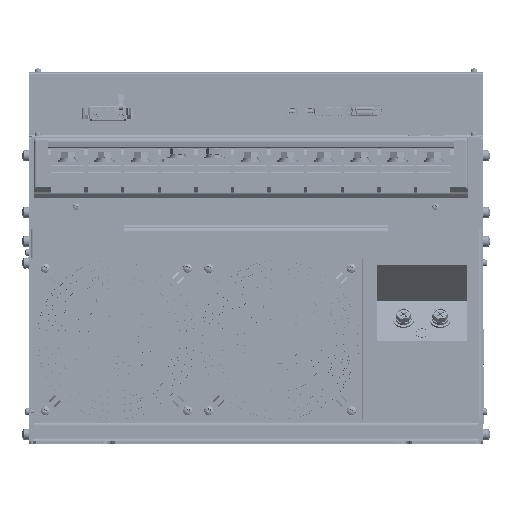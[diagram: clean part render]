
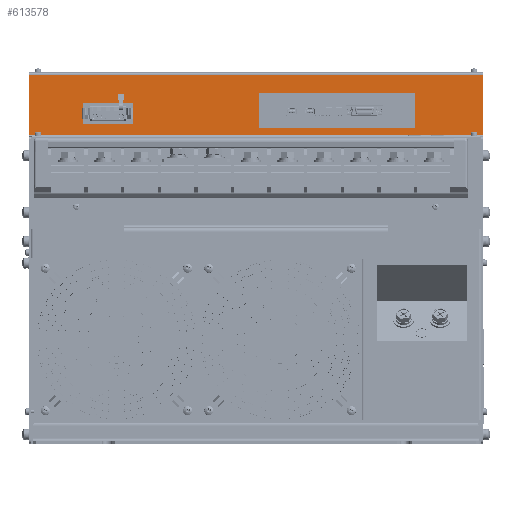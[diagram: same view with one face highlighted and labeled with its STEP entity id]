
A CAD part, front view. The second image highlights one B-rep face of the part: STEP entity #613578.
In plain terms, the highlighted planar face has unit normal (0, -1, 0).
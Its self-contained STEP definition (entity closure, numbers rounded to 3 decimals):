
#110 = LINE ( 'NONE', #176382, #438803 ) ;
#286 = EDGE_CURVE ( 'NONE', #43005, #220230, #213677, .T. ) ;
#598 = CARTESIAN_POINT ( 'NONE',  ( -151.6, 74.5, 277.6 ) ) ;
#5106 = EDGE_LOOP ( 'NONE', ( #549450, #39652, #375952, #313842 ) ) ;
#10384 = DIRECTION ( 'NONE',  ( -1., 0., 0. ) ) ;
#15316 = CARTESIAN_POINT ( 'NONE',  ( 0., 74.5, 249. ) ) ;
#22300 = EDGE_CURVE ( 'NONE', #220997, #133242, #601373, .T. ) ;
#24456 = VECTOR ( 'NONE', #530413, 1000. ) ;
#24566 = DIRECTION ( 'NONE',  ( 0., 0., -1. ) ) ;
#26454 = CARTESIAN_POINT ( 'NONE',  ( 198.6, 74.5, 302.4 ) ) ;
#34543 = VECTOR ( 'NONE', #10384, 1000. ) ;
#39527 = CARTESIAN_POINT ( 'NONE',  ( -151.6, 74.5, 259.6 ) ) ;
#39652 = ORIENTED_EDGE ( 'NONE', *, *, #211444, .F. ) ;
#43005 = VERTEX_POINT ( 'NONE', #51105 ) ;
#51105 = CARTESIAN_POINT ( 'NONE',  ( -107.6, 74.5, 277.6 ) ) ;
#52530 = VECTOR ( 'NONE', #433898, 1000. ) ;
#63106 = FACE_BOUND ( 'NONE', #397489, .T. ) ;
#64004 = VERTEX_POINT ( 'NONE', #272437 ) ;
#72244 = ORIENTED_EDGE ( 'NONE', *, *, #451023, .F. ) ;
#74208 = LINE ( 'NONE', #509746, #34543 ) ;
#75015 = VECTOR ( 'NONE', #399418, 1000. ) ;
#80458 = VECTOR ( 'NONE', #110460, 1000. ) ;
#109573 = CARTESIAN_POINT ( 'NONE',  ( 198.6, 74.5, 249. ) ) ;
#110460 = DIRECTION ( 'NONE',  ( -1., 0., 0. ) ) ;
#112747 = ORIENTED_EDGE ( 'NONE', *, *, #187086, .F. ) ;
#115973 = DIRECTION ( 'NONE',  ( -1., 0., 0. ) ) ;
#133242 = VERTEX_POINT ( 'NONE', #187780 ) ;
#139122 = VERTEX_POINT ( 'NONE', #461889 ) ;
#142862 = FACE_OUTER_BOUND ( 'NONE', #5106, .T. ) ;
#144423 = CARTESIAN_POINT ( 'NONE',  ( 139.3, 74.5, 286.2 ) ) ;
#145737 = EDGE_CURVE ( 'NONE', #149142, #220997, #566871, .T. ) ;
#147483 = ORIENTED_EDGE ( 'NONE', *, *, #22300, .F. ) ;
#147550 = CARTESIAN_POINT ( 'NONE',  ( -198.6, 74.5, 302.4 ) ) ;
#149142 = VERTEX_POINT ( 'NONE', #218937 ) ;
#157536 = LINE ( 'NONE', #631172, #24456 ) ;
#173521 = CARTESIAN_POINT ( 'NONE',  ( -151.6, 74.5, 277.6 ) ) ;
#176382 = CARTESIAN_POINT ( 'NONE',  ( 139.3, 74.5, 286.2 ) ) ;
#187086 = EDGE_CURVE ( 'NONE', #64004, #596160, #436584, .T. ) ;
#187780 = CARTESIAN_POINT ( 'NONE',  ( 139.3, 74.5, 256.2 ) ) ;
#198848 = VERTEX_POINT ( 'NONE', #144423 ) ;
#198992 = CARTESIAN_POINT ( 'NONE',  ( -107.6, 74.5, 277.6 ) ) ;
#211444 = EDGE_CURVE ( 'NONE', #565074, #326127, #157536, .T. ) ;
#213677 = LINE ( 'NONE', #263785, #80458 ) ;
#218937 = CARTESIAN_POINT ( 'NONE',  ( 2.3, 74.5, 286.2 ) ) ;
#220230 = VERTEX_POINT ( 'NONE', #598 ) ;
#220997 = VERTEX_POINT ( 'NONE', #225062 ) ;
#225062 = CARTESIAN_POINT ( 'NONE',  ( 2.3, 74.5, 256.2 ) ) ;
#228444 = FACE_BOUND ( 'NONE', #247511, .T. ) ;
#242233 = VECTOR ( 'NONE', #619849, 1000. ) ;
#242959 = DIRECTION ( 'NONE',  ( 0., 0., 1. ) ) ;
#244724 = EDGE_CURVE ( 'NONE', #198848, #149142, #74208, .T. ) ;
#247511 = EDGE_LOOP ( 'NONE', ( #72244, #540178, #576936, #112747 ) ) ;
#263785 = CARTESIAN_POINT ( 'NONE',  ( -151.6, 74.5, 277.6 ) ) ;
#265501 = LINE ( 'NONE', #198992, #351561 ) ;
#272437 = CARTESIAN_POINT ( 'NONE',  ( -151.6, 74.5, 259.6 ) ) ;
#272596 = VECTOR ( 'NONE', #566279, 1000. ) ;
#294757 = LINE ( 'NONE', #594613, #302287 ) ;
#297903 = LINE ( 'NONE', #173521, #329365 ) ;
#300158 = CARTESIAN_POINT ( 'NONE',  ( -198.6, 74.5, 250. ) ) ;
#302287 = VECTOR ( 'NONE', #491615, 1000. ) ;
#311436 = EDGE_CURVE ( 'NONE', #326127, #139122, #451420, .T. ) ;
#313842 = ORIENTED_EDGE ( 'NONE', *, *, #425065, .F. ) ;
#324717 = AXIS2_PLACEMENT_3D ( 'NONE', #15316, #464351, #115973 ) ;
#326127 = VERTEX_POINT ( 'NONE', #300158 ) ;
#329365 = VECTOR ( 'NONE', #477941, 1000. ) ;
#351561 = VECTOR ( 'NONE', #242959, 1000. ) ;
#357002 = PLANE ( 'NONE',  #324717 ) ;
#364657 = CARTESIAN_POINT ( 'NONE',  ( 2.3, 74.5, 256.2 ) ) ;
#366304 = EDGE_CURVE ( 'NONE', #444993, #565074, #383523, .T. ) ;
#375952 = ORIENTED_EDGE ( 'NONE', *, *, #366304, .F. ) ;
#383523 = LINE ( 'NONE', #109573, #242233 ) ;
#388843 = ORIENTED_EDGE ( 'NONE', *, *, #145737, .F. ) ;
#394754 = EDGE_CURVE ( 'NONE', #596160, #43005, #265501, .T. ) ;
#397489 = EDGE_LOOP ( 'NONE', ( #388843, #587023, #528207, #147483 ) ) ;
#399418 = DIRECTION ( 'NONE',  ( 0., 0., 1. ) ) ;
#425065 = EDGE_CURVE ( 'NONE', #139122, #444993, #294757, .T. ) ;
#433898 = DIRECTION ( 'NONE',  ( 1., 0., 0. ) ) ;
#436584 = LINE ( 'NONE', #39527, #52530 ) ;
#438803 = VECTOR ( 'NONE', #570775, 1000. ) ;
#439747 = EDGE_CURVE ( 'NONE', #133242, #198848, #110, .T. ) ;
#444993 = VERTEX_POINT ( 'NONE', #26454 ) ;
#451023 = EDGE_CURVE ( 'NONE', #220230, #64004, #297903, .T. ) ;
#451420 = LINE ( 'NONE', #147550, #75015 ) ;
#456895 = VECTOR ( 'NONE', #24566, 1000. ) ;
#461889 = CARTESIAN_POINT ( 'NONE',  ( -198.6, 74.5, 302.4 ) ) ;
#464351 = DIRECTION ( 'NONE',  ( 0., -1., 0. ) ) ;
#477941 = DIRECTION ( 'NONE',  ( 0., 0., -1. ) ) ;
#491615 = DIRECTION ( 'NONE',  ( 1., 0., 0. ) ) ;
#509746 = CARTESIAN_POINT ( 'NONE',  ( 2.3, 74.5, 286.2 ) ) ;
#528207 = ORIENTED_EDGE ( 'NONE', *, *, #439747, .F. ) ;
#530413 = DIRECTION ( 'NONE',  ( -1., 0., 0. ) ) ;
#540178 = ORIENTED_EDGE ( 'NONE', *, *, #286, .F. ) ;
#549450 = ORIENTED_EDGE ( 'NONE', *, *, #311436, .F. ) ;
#556564 = CARTESIAN_POINT ( 'NONE',  ( 198.6, 74.5, 250. ) ) ;
#565074 = VERTEX_POINT ( 'NONE', #556564 ) ;
#566279 = DIRECTION ( 'NONE',  ( 1., 0., 0. ) ) ;
#566871 = LINE ( 'NONE', #572119, #456895 ) ;
#570775 = DIRECTION ( 'NONE',  ( 0., 0., 1. ) ) ;
#572119 = CARTESIAN_POINT ( 'NONE',  ( 2.3, 74.5, 286.2 ) ) ;
#576936 = ORIENTED_EDGE ( 'NONE', *, *, #394754, .F. ) ;
#587023 = ORIENTED_EDGE ( 'NONE', *, *, #244724, .F. ) ;
#594613 = CARTESIAN_POINT ( 'NONE',  ( 198.6, 74.5, 302.4 ) ) ;
#596160 = VERTEX_POINT ( 'NONE', #638063 ) ;
#601373 = LINE ( 'NONE', #364657, #272596 ) ;
#613578 = ADVANCED_FACE ( 'NONE', ( #142862, #228444, #63106 ), #357002, .T. ) ;
#619849 = DIRECTION ( 'NONE',  ( 0., 0., -1. ) ) ;
#631172 = CARTESIAN_POINT ( 'NONE',  ( 198.6, 74.5, 250. ) ) ;
#638063 = CARTESIAN_POINT ( 'NONE',  ( -107.6, 74.5, 259.6 ) ) ;
